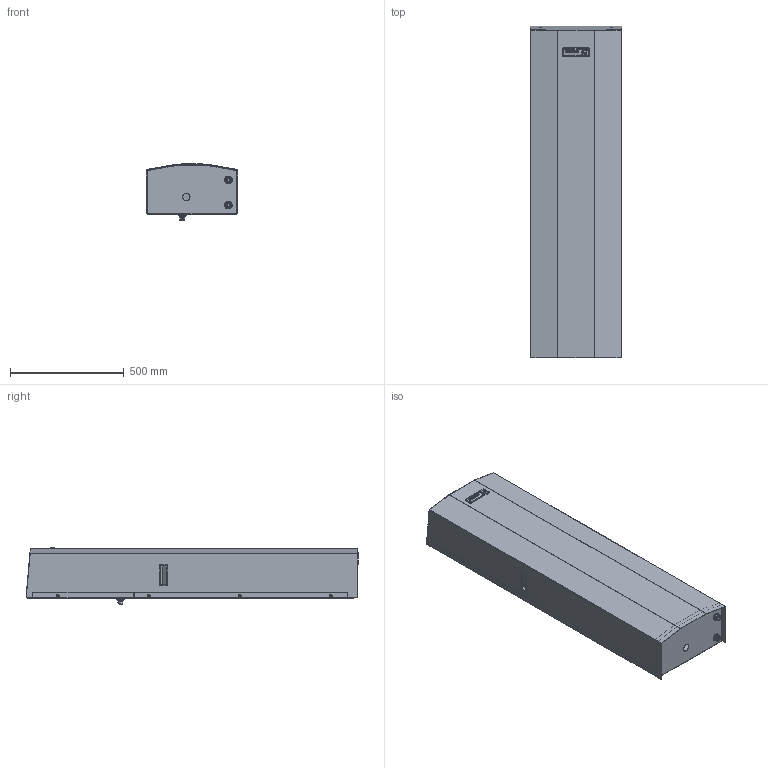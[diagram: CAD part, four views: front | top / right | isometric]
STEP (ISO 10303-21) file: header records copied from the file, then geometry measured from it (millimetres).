
FILE_DESCRIPTION (( 'STEP AP203' ), '1' );
FILE_NAME ('PWS 3502.STEP', '2017-11-21T19:52:15', ( '' ), ( '' ), 'SwSTEP 2.0', 'SolidWorks 2015', '' );
FILE_SCHEMA (( 'CONFIG_CONTROL_DESIGN' ));
Length unit declared in the file: millimetre
Products named in the file (11): 80000-008_885000136; 020140030_020140030; PWS 3502; 850380034; 825500030_825500030; 80030-031_802002102; US-Low profile Flush Pull handle_820700000; 885000105_885000105; 015080031; 085110180; 80030-032_No Knockout
Assembly tree (26 placements, depth 2):
  PWS 3502
    80030-032_No Knockout
    020140030_020140030  x15
    850380034  x2
    825500030_825500030
    80030-031_802002102
    US-Low profile Flush Pull handle_820700000  x2
    885000105_885000105
    015080031
    085110180
    80000-008_885000136
Bounding box: 404.29 x 1460 x 248.84 mm (x, y, z)
Volume: 2604522.1 mm3; surface area: 4181994.5 mm2
Topology: 77 solids, 78 shells, 4517 faces, 11753 edges, 7650 vertices
Faces by surface type: plane 2325, bspline 956, cylinder 931, cone 211, torus 86, sphere 8
Entity records: 204561 total; most frequent: CARTESIAN_POINT 121044, ORIENTED_EDGE 18612, DIRECTION 13623, EDGE_CURVE 9306, VERTEX_POINT 6094, LINE 5975, VECTOR 5975, EDGE_LOOP 4046
